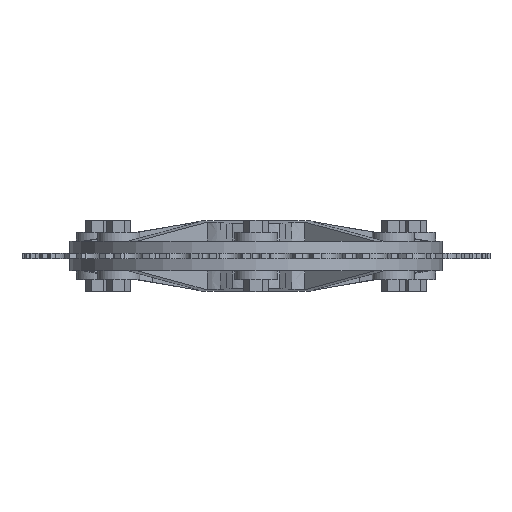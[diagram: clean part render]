
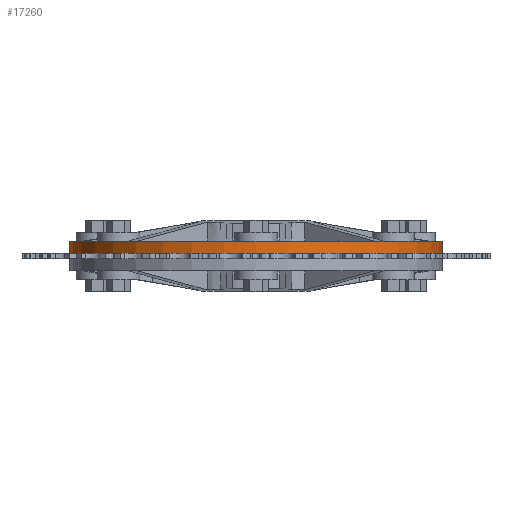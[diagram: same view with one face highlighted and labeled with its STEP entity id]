
A CAD part, left-side view. The second image highlights one B-rep face of the part: STEP entity #17260.
In plain terms, the highlighted cylindrical face has radius 98.425 mm (diameter 196.85 mm), a partial arc.
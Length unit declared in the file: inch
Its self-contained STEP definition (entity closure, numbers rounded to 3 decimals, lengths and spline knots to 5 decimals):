
#8385=DIRECTION('',(0.,1.,0.));
#8386=VECTOR('',#8385,0.25);
#8387=CARTESIAN_POINT('',(-3.875,0.,0.));
#8388=LINE('',#8387,#8386);
#8389=DIRECTION('',(0.,1.,0.));
#8390=VECTOR('',#8389,0.25);
#8391=CARTESIAN_POINT('',(3.875,0.,0.));
#8392=LINE('',#8391,#8390);
#8398=CARTESIAN_POINT('',(0.,0.,0.));
#8399=DIRECTION('',(0.,-1.,0.));
#8400=DIRECTION('',(-1.,0.,0.));
#8401=AXIS2_PLACEMENT_3D('',#8398,#8399,#8400);
#8408=CARTESIAN_POINT('',(0.,0.25,0.));
#8409=DIRECTION('',(0.,-1.,0.));
#8410=DIRECTION('',(-1.,0.,0.));
#8411=AXIS2_PLACEMENT_3D('',#8408,#8409,#8410);
#15224=CARTESIAN_POINT('',(-3.875,0.,0.));
#15225=CARTESIAN_POINT('',(-3.875,0.25,0.));
#15226=VERTEX_POINT('',#15224);
#15227=VERTEX_POINT('',#15225);
#15228=CARTESIAN_POINT('',(3.875,0.,0.));
#15229=CARTESIAN_POINT('',(3.875,0.25,0.));
#15230=VERTEX_POINT('',#15228);
#15231=VERTEX_POINT('',#15229);
#17248=CARTESIAN_POINT('',(0.,0.2625,0.));
#17249=DIRECTION('',(0.,-1.,0.));
#17250=DIRECTION('',(1.,0.,0.));
#17251=AXIS2_PLACEMENT_3D('',#17248,#17249,#17250);
#17252=CYLINDRICAL_SURFACE('',#17251,3.875);
#17253=ORIENTED_EDGE('',*,*,#17238,.F.);
#17254=ORIENTED_EDGE('',*,*,#17170,.T.);
#17255=ORIENTED_EDGE('',*,*,#17242,.T.);
#17257=ORIENTED_EDGE('',*,*,#17256,.F.);
#17258=EDGE_LOOP('',(#17253,#17254,#17255,#17257));
#17259=FACE_OUTER_BOUND('',#17258,.F.);
#17260=ADVANCED_FACE('',(#17259),#17252,.T.);
#8402=CIRCLE('',#8401,3.875);
#8412=CIRCLE('',#8411,3.875);
#17170=EDGE_CURVE('',#15226,#15230,#8402,.T.);
#17238=EDGE_CURVE('',#15226,#15227,#8388,.T.);
#17242=EDGE_CURVE('',#15230,#15231,#8392,.T.);
#17256=EDGE_CURVE('',#15227,#15231,#8412,.T.);
